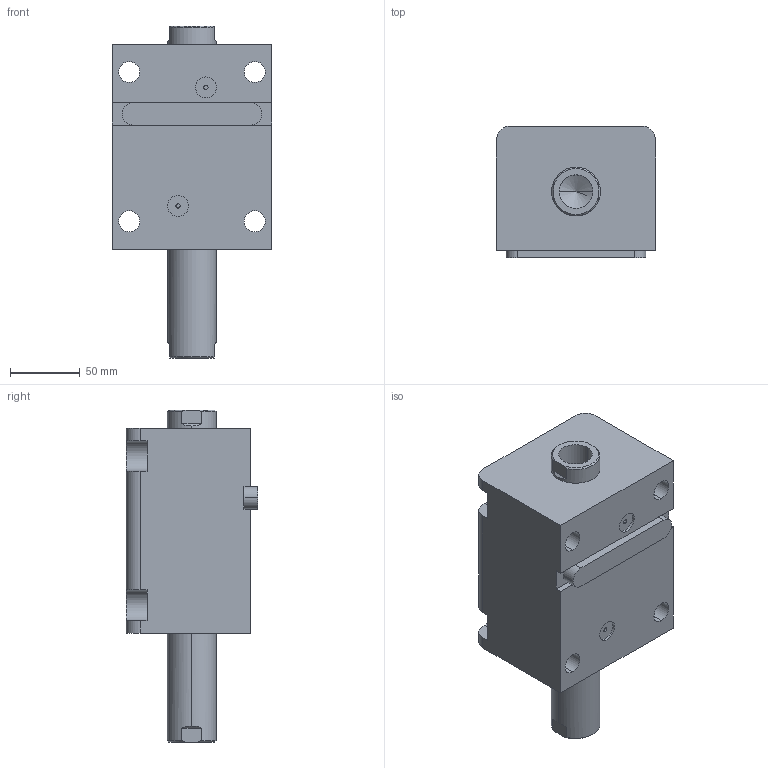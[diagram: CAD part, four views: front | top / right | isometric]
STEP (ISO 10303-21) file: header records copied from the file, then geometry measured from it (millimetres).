
FILE_DESCRIPTION (( 'STEP AP203' ), '1' );
FILE_NAME ('HTB-LWM63-65N.STEP', '2020-12-25T03:50:16', ( '微软用户' ), ( '微软中国' ), 'SwSTEP 2.0', 'SolidWorks 2012', '' );
FILE_SCHEMA (( 'CONFIG_CONTROL_DESIGN' ));
Length unit declared in the file: millimetre
Products named in the file (4): HTB-LWM63-瑩; HTB-LWM63-65掛极; HTB-LWM63-65N活塞杆; HTB-LWM63-65N
Assembly tree (3 placements, depth 2):
  HTB-LWM63-65N
    HTB-LWM63-65掛极
    HTB-LWM63-65N活塞杆
    HTB-LWM63-瑩
Bounding box: 114 x 94.5 x 238 mm (x, y, z)
Volume: 1325061.3 mm3; surface area: 165565 mm2
Topology: 3 solids, 3 shells, 105 faces, 261 edges, 168 vertices
Faces by surface type: cylinder 45, plane 44, torus 8, cone 8
Entity records: 3571 total; most frequent: CARTESIAN_POINT 592, DIRECTION 573, ORIENTED_EDGE 514, EDGE_CURVE 257, AXIS2_PLACEMENT_3D 221, VERTEX_POINT 168, VECTOR 131, LINE 131
